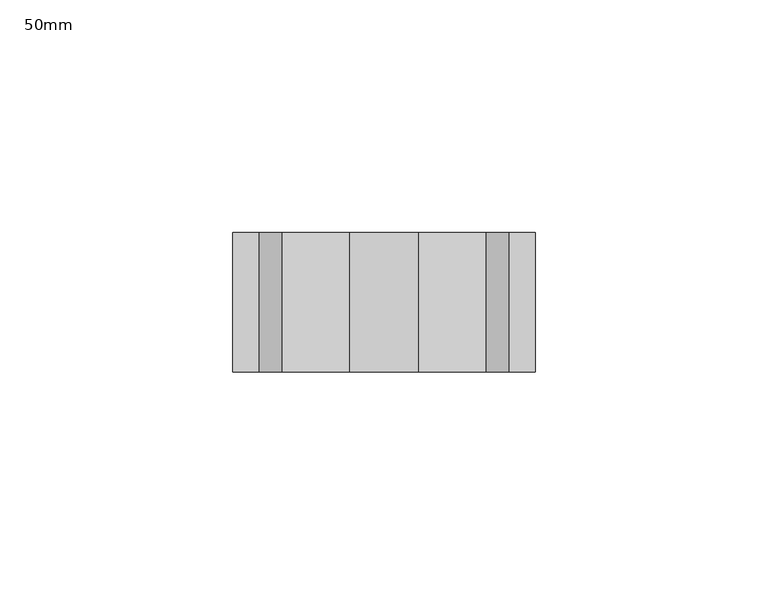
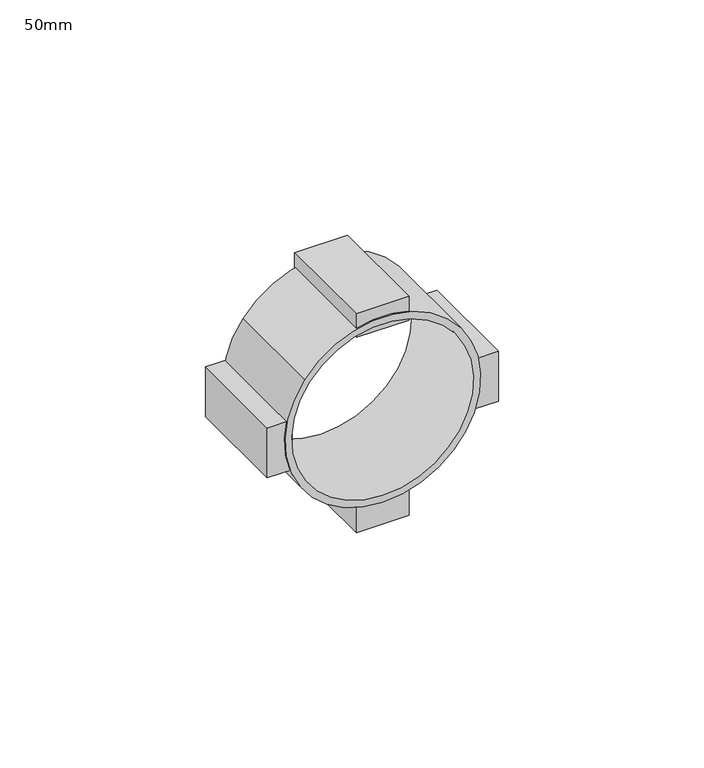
"""IFC4 building model written with IfcOpenShell, lengths in millimetres: pipe fitting geometry, AmancoWavin_Accesoriosdetubería_AS+_Soporte : 50mm."""

from ifc_helpers import new_model, si_unit, point, frame, frame_2d, origin, place, context, project, spatial, polyline, circle_curve, trimmed, segment, composite_curve, outline, extrude, source, transform, mapped, element, save


def pipe_fitting_50mm_8b020d9f(model_context):
    return source(origin(), model_context, "Body", "SweptSolid", [
        extrude(outline(composite_curve([segment(trimmed(circle_curve(frame_2d((1.5, 0.0)), 27.5), [point((18.0359457, 21.9729948))], [point((18.0359457, -21.9729948))], False, "CARTESIAN"), True, "CONTINUOUS"), segment(trimmed(circle_curve(frame_2d((1.5, 0.0)), 27.5), [point((18.0359457, -21.9729948))], [point((18.0359457, 21.9729948))], False, "CARTESIAN"), True, "CONTINUOUS")], self_intersect=False), holes=[composite_curve([segment(trimmed(circle_curve(frame_2d((1.5, 0.0)), 25.5), [point((16.8333315, -20.3749588))], [point((16.8333315, 20.3749588))], True, "CARTESIAN"), True, "CONTINUOUS"), segment(trimmed(circle_curve(frame_2d((1.5, 0.0)), 25.5), [point((16.8333315, 20.3749588))], [point((16.8333315, -20.3749588))], True, "CARTESIAN"), True, "CONTINUOUS")], self_intersect=False)]), frame((0.0, -15.0, 0.0), z_axis=(0.0, 1.0, 0.0), x_axis=(0.0, 0.0, 1.0)), (0.0, 0.0, 1.0), 30.0),
        extrude(outline(polyline([(32.5, -15.0), (25.5, -15.0), (25.5, 15.0), (32.5, 15.0), (32.5, -15.0)])), frame((0.0, 0.0, -7.3902676), z_axis=(0.0, 0.0, 1.0), x_axis=(1.0, 0.0, 0.0)), (0.0, 0.0, 1.0), 14.7805353),
        extrude(outline(polyline([(-25.5, -15.0), (-32.5, -15.0), (-32.5, 15.0), (-25.5, 15.0), (-25.5, -15.0)])), frame((0.0, 0.0, -7.3902676), z_axis=(0.0, 0.0, 1.0), x_axis=(1.0, 0.0, 0.0)), (0.0, 0.0, 1.0), 14.7805353),
        extrude(outline(polyline([(7.3902676, -15.0), (-7.3902676, -15.0), (-7.3902676, 15.0), (7.3902676, 15.0), (7.3902676, -15.0)])), frame((0.0, 0.0, -32.5), z_axis=(0.0, 0.0, 1.0), x_axis=(1.0, 0.0, 0.0)), (0.0, 0.0, 1.0), 7.7380952),
        extrude(outline(polyline([(7.3902676, -15.0), (-7.3902676, -15.0), (-7.3902676, 15.0), (7.3902676, 15.0), (7.3902676, -15.0)])), frame((0.0, 0.0, 25.5), z_axis=(0.0, 0.0, 1.0), x_axis=(1.0, 0.0, 0.0)), (0.0, 0.0, 1.0), 7.0),
    ])


if __name__ == "__main__":
    model = new_model("IFC4")
    model_context = context("Model", 3, world=origin())
    ifc_project = project(units=[si_unit("LENGTHUNIT", "METRE", prefix="MILLI")], contexts=[model_context])
    site = spatial("IfcSite", under=ifc_project)
    building = spatial("IfcBuilding", under=site)
    placement = place(None, origin())
    pipe_fitting_50mm_shape = pipe_fitting_50mm_8b020d9f(model_context)
    element("IfcPipeFitting", 1, ObjectType="AmancoWavin_Accesoriosdetubería_AS+_Soporte : 50mm", at=placement, inside=building, context=model_context, shape_type="MappedRepresentation", body=[
        mapped(pipe_fitting_50mm_shape, transform((0.0, 0.0, 0.0), x_axis=(1.0, 0.0, 0.0), y_axis=(0.0, 1.0, 0.0), z_axis=(0.0, 0.0, 1.0))),
    ])
    save(model, "model.ifc")
